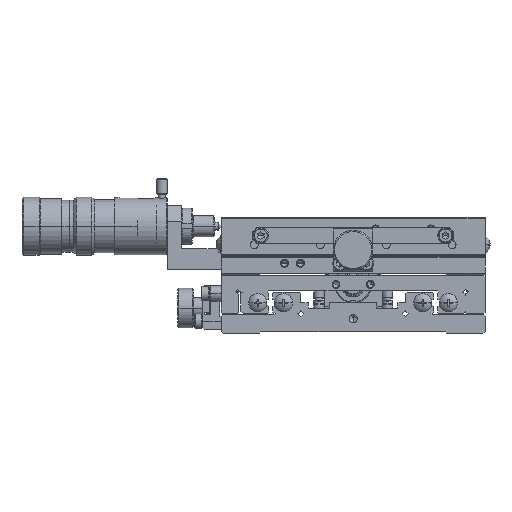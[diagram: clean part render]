
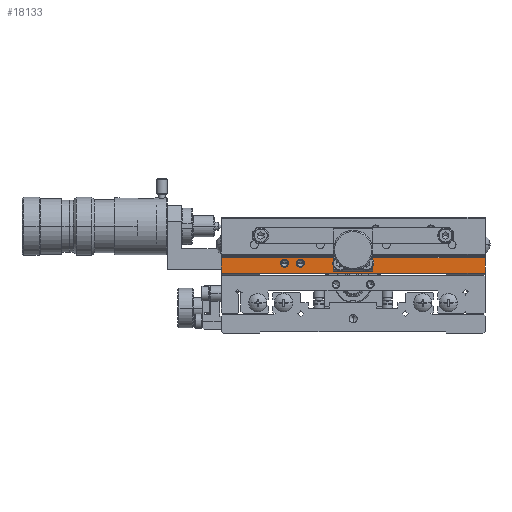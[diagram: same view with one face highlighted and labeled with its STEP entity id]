
A CAD part, front view. The second image highlights one B-rep face of the part: STEP entity #18133.
In plain terms, the highlighted planar face has unit normal (0, -1, 0) as drawn and (0, 1, 0) by its records, which use the part's own axes.
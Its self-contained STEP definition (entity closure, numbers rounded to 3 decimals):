
#17444 = EDGE_CURVE ( 'NONE', #46936, #46927, #98902, .T. ) ;
#17538 = EDGE_CURVE ( 'NONE', #46648, #46614, #98989, .T. ) ;
#18106 = EDGE_CURVE ( 'NONE', #18107, #18157, #100014, .T. ) ;
#18107 = VERTEX_POINT ( 'NONE', #100007 ) ;
#18109 = ORIENTED_EDGE ( 'NONE', *, *, #18111, .F. ) ;
#18111 = EDGE_CURVE ( 'NONE', #52734, #18107, #100005, .T. ) ;
#18115 = EDGE_LOOP ( 'NONE', ( #18213, #18216 ) ) ;
#18118 = EDGE_CURVE ( 'NONE', #18119, #18157, #99989, .T. ) ;
#18119 = VERTEX_POINT ( 'NONE', #99981 ) ;
#18133 = ADVANCED_FACE ( 'NONE', ( #100077, #100075, #100073 ), #100072, .T. ) ;
#18134 = EDGE_LOOP ( 'NONE', ( #18135, #18136, #18236, #18237, #18243, #18248, #18249, #18109 ) ) ;
#18135 = ORIENTED_EDGE ( 'NONE', *, *, #52866, .F. ) ;
#18136 = ORIENTED_EDGE ( 'NONE', *, *, #52725, .F. ) ;
#18157 = VERTEX_POINT ( 'NONE', #100044 ) ;
#18213 = ORIENTED_EDGE ( 'NONE', *, *, #17444, .F. ) ;
#18216 = ORIENTED_EDGE ( 'NONE', *, *, #46934, .F. ) ;
#18219 = EDGE_LOOP ( 'NONE', ( #18220, #18221 ) ) ;
#18220 = ORIENTED_EDGE ( 'NONE', *, *, #17538, .F. ) ;
#18221 = ORIENTED_EDGE ( 'NONE', *, *, #46618, .F. ) ;
#18236 = ORIENTED_EDGE ( 'NONE', *, *, #52764, .T. ) ;
#18237 = ORIENTED_EDGE ( 'NONE', *, *, #18239, .F. ) ;
#18239 = EDGE_CURVE ( 'NONE', #18241, #52740, #100155, .T. ) ;
#18241 = VERTEX_POINT ( 'NONE', #100148 ) ;
#18243 = ORIENTED_EDGE ( 'NONE', *, *, #18246, .T. ) ;
#18246 = EDGE_CURVE ( 'NONE', #18241, #18119, #100271, .T. ) ;
#18248 = ORIENTED_EDGE ( 'NONE', *, *, #18118, .T. ) ;
#18249 = ORIENTED_EDGE ( 'NONE', *, *, #18106, .F. ) ;
#46614 = VERTEX_POINT ( 'NONE', #77991 ) ;
#46618 = EDGE_CURVE ( 'NONE', #46614, #46648, #78050, .T. ) ;
#46648 = VERTEX_POINT ( 'NONE', #78069 ) ;
#46927 = VERTEX_POINT ( 'NONE', #78560 ) ;
#46934 = EDGE_CURVE ( 'NONE', #46927, #46936, #78549, .T. ) ;
#46936 = VERTEX_POINT ( 'NONE', #78540 ) ;
#52686 = VERTEX_POINT ( 'NONE', #89757 ) ;
#52720 = VERTEX_POINT ( 'NONE', #89847 ) ;
#52725 = EDGE_CURVE ( 'NONE', #52720, #52686, #89832, .T. ) ;
#52734 = VERTEX_POINT ( 'NONE', #89912 ) ;
#52740 = VERTEX_POINT ( 'NONE', #89899 ) ;
#52764 = EDGE_CURVE ( 'NONE', #52720, #52740, #89959, .T. ) ;
#52866 = EDGE_CURVE ( 'NONE', #52686, #52734, #90302, .T. ) ;
#77991 = CARTESIAN_POINT ( 'NONE',  ( 24.5, 50., 4.5 ) ) ;
#78046 = DIRECTION ( 'NONE',  ( 1., 0., 0. ) ) ;
#78047 = DIRECTION ( 'NONE',  ( 0., 1., 0. ) ) ;
#78048 = CARTESIAN_POINT ( 'NONE',  ( 26., 50., 4.5 ) ) ;
#78049 = AXIS2_PLACEMENT_3D ( 'NONE', #78048, #78047, #78046 ) ;
#78050 = CIRCLE ( 'NONE', #78049, 1.5 ) ;
#78069 = CARTESIAN_POINT ( 'NONE',  ( 27.5, 50., 4.5 ) ) ;
#78540 = CARTESIAN_POINT ( 'NONE',  ( 21.5, 50., 4.5 ) ) ;
#78541 = DIRECTION ( 'NONE',  ( 1., 0., 0. ) ) ;
#78542 = DIRECTION ( 'NONE',  ( 0., 1., 0. ) ) ;
#78543 = CARTESIAN_POINT ( 'NONE',  ( 20., 50., 4.5 ) ) ;
#78544 = AXIS2_PLACEMENT_3D ( 'NONE', #78543, #78542, #78541 ) ;
#78549 = CIRCLE ( 'NONE', #78544, 1.5 ) ;
#78560 = CARTESIAN_POINT ( 'NONE',  ( 18.5, 50., 4.5 ) ) ;
#89757 = CARTESIAN_POINT ( 'NONE',  ( -7.5, 50., 1.5 ) ) ;
#89829 = DIRECTION ( 'NONE',  ( -1., 0., 0. ) ) ;
#89830 = VECTOR ( 'NONE', #89829, 1000. ) ;
#89831 = CARTESIAN_POINT ( 'NONE',  ( 7.5, 50., 1.5 ) ) ;
#89832 = LINE ( 'NONE', #89831, #89830 ) ;
#89847 = CARTESIAN_POINT ( 'NONE',  ( 7.5, 50., 1.5 ) ) ;
#89899 = CARTESIAN_POINT ( 'NONE',  ( 7.5, 50., 6.5 ) ) ;
#89912 = CARTESIAN_POINT ( 'NONE',  ( -7.5, 50., 6.5 ) ) ;
#89955 = DIRECTION ( 'NONE',  ( 0., 0., 1. ) ) ;
#89956 = VECTOR ( 'NONE', #89955, 1000. ) ;
#89957 = CARTESIAN_POINT ( 'NONE',  ( 7.5, 50., 1.5 ) ) ;
#89959 = LINE ( 'NONE', #89957, #89956 ) ;
#90185 = CARTESIAN_POINT ( 'NONE',  ( -7.5, 50., 1.5 ) ) ;
#90287 = DIRECTION ( 'NONE',  ( 0., 0., 1. ) ) ;
#90289 = VECTOR ( 'NONE', #90287, 1000. ) ;
#90302 = LINE ( 'NONE', #90185, #90289 ) ;
#98784 = CARTESIAN_POINT ( 'NONE',  ( 20., 50., 4.5 ) ) ;
#98899 = DIRECTION ( 'NONE',  ( 1., 0., 0. ) ) ;
#98900 = DIRECTION ( 'NONE',  ( 0., 1., 0. ) ) ;
#98901 = AXIS2_PLACEMENT_3D ( 'NONE', #98784, #98900, #98899 ) ;
#98902 = CIRCLE ( 'NONE', #98901, 1.5 ) ;
#98974 = DIRECTION ( 'NONE',  ( 1., 0., 0. ) ) ;
#98976 = DIRECTION ( 'NONE',  ( 0., 1., 0. ) ) ;
#98979 = CARTESIAN_POINT ( 'NONE',  ( 26., 50., 4.5 ) ) ;
#98980 = AXIS2_PLACEMENT_3D ( 'NONE', #98979, #98976, #98974 ) ;
#98989 = CIRCLE ( 'NONE', #98980, 1.5 ) ;
#99981 = CARTESIAN_POINT ( 'NONE',  ( 50., 50., 0.8 ) ) ;
#99982 = DIRECTION ( 'NONE',  ( -1., 0., 0. ) ) ;
#99983 = VECTOR ( 'NONE', #99982, 1000. ) ;
#99985 = CARTESIAN_POINT ( 'NONE',  ( 50., 50., 0.8 ) ) ;
#99989 = LINE ( 'NONE', #99985, #99983 ) ;
#100000 = DIRECTION ( 'NONE',  ( -1., 0., 0. ) ) ;
#100002 = VECTOR ( 'NONE', #100000, 1000. ) ;
#100004 = CARTESIAN_POINT ( 'NONE',  ( 50., 50., 6.5 ) ) ;
#100005 = LINE ( 'NONE', #100004, #100002 ) ;
#100007 = CARTESIAN_POINT ( 'NONE',  ( -50., 50., 6.5 ) ) ;
#100009 = DIRECTION ( 'NONE',  ( 0., 0., -1. ) ) ;
#100011 = VECTOR ( 'NONE', #100009, 1000. ) ;
#100013 = CARTESIAN_POINT ( 'NONE',  ( -50., 50., 6.5 ) ) ;
#100014 = LINE ( 'NONE', #100013, #100011 ) ;
#100044 = CARTESIAN_POINT ( 'NONE',  ( -50., 50., 0.8 ) ) ;
#100063 = DIRECTION ( 'NONE',  ( -1., 0., 0. ) ) ;
#100065 = DIRECTION ( 'NONE',  ( 0., 1., 0. ) ) ;
#100067 = AXIS2_PLACEMENT_3D ( 'NONE', #100070, #100065, #100063 ) ;
#100070 = CARTESIAN_POINT ( 'NONE',  ( 50., 50., 6.5 ) ) ;
#100072 = PLANE ( 'NONE',  #100067 ) ;
#100073 = FACE_BOUND ( 'NONE', #18219, .T. ) ;
#100075 = FACE_BOUND ( 'NONE', #18115, .T. ) ;
#100077 = FACE_OUTER_BOUND ( 'NONE', #18134, .T. ) ;
#100148 = CARTESIAN_POINT ( 'NONE',  ( 50., 50., 6.5 ) ) ;
#100149 = DIRECTION ( 'NONE',  ( -1., 0., 0. ) ) ;
#100151 = VECTOR ( 'NONE', #100149, 1000. ) ;
#100153 = CARTESIAN_POINT ( 'NONE',  ( 50., 50., 6.5 ) ) ;
#100155 = LINE ( 'NONE', #100153, #100151 ) ;
#100267 = DIRECTION ( 'NONE',  ( 0., 0., -1. ) ) ;
#100269 = VECTOR ( 'NONE', #100267, 1000. ) ;
#100270 = CARTESIAN_POINT ( 'NONE',  ( 50., 50., 6.5 ) ) ;
#100271 = LINE ( 'NONE', #100270, #100269 ) ;
